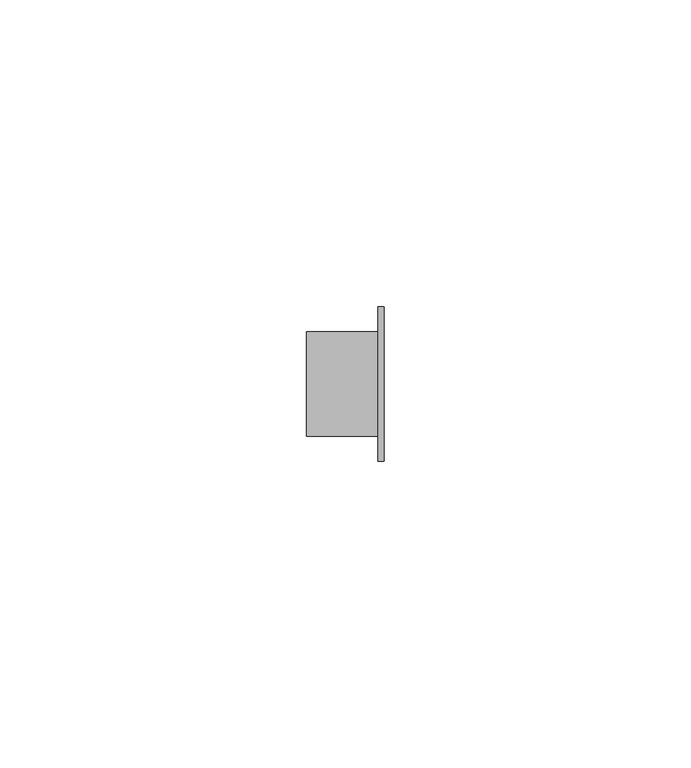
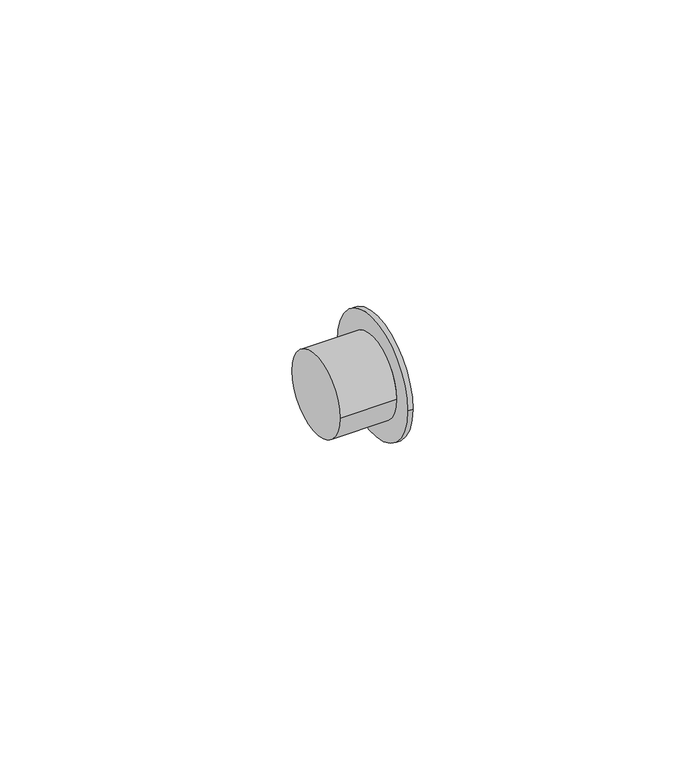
"""IFC4 building model written with IfcOpenShell, lengths in millimetres: pipe fitting geometry, Bucha de redução reta - Soldada - CU : Padrão."""

from ifc_helpers import new_model, si_unit, frame, origin, place, context, project, spatial, circle_curve, source, transform, mapped, element, save
from ifc_brep_helpers import plane_surface, cylinder_surface, advanced_brep


def pipe_fitting_89a6909e(model_context):
    return source(origin(), model_context, "Body", "AdvancedBrep", [
        advanced_brep(
        [(0.0, 8.4937, 0.0), (0.0, -8.4937, 0.0), (11.6589, -8.4937, 0.0), (11.6589, 8.4937, 0.0), (12.6589, 12.6, 0.0), (12.6589, -12.6, 0.0), (11.6589, -12.6, 0.0), (11.6589, 12.6, 0.0)],
        [
            (0, 1, circle_curve(frame((0.0, 0.0, 0.0), z_axis=(-1.0, 0.0, 0.0), x_axis=(0.0, -1.0, 0.0)), 8.4937)),
            (1, 0, circle_curve(frame((0.0, 0.0, 0.0), z_axis=(-1.0, 0.0, 0.0), x_axis=(0.0, -1.0, 0.0)), 8.4937)),
            (1, 2),
            (2, 3, circle_curve(frame((11.6589, 0.0, 0.0), z_axis=(-1.0, 0.0, 0.0), x_axis=(0.0, -1.0, 0.0)), 8.4937)),
            (3, 0),
            (3, 2, circle_curve(frame((11.6589, 0.0, 0.0), z_axis=(-1.0, 0.0, 0.0), x_axis=(0.0, -1.0, 0.0)), 8.4937)),
            (4, 5, circle_curve(frame((12.6589, 0.0, 0.0), z_axis=(1.0, 0.0, 0.0), x_axis=(0.0, -1.0, 0.0)), 12.6)),
            (5, 4, circle_curve(frame((12.6589, 0.0, 0.0), z_axis=(1.0, 0.0, 0.0), x_axis=(0.0, -1.0, 0.0)), 12.6)),
            (6, 5),
            (4, 7),
            (7, 6, circle_curve(frame((11.6589, 0.0, 0.0), z_axis=(1.0, 0.0, 0.0), x_axis=(0.0, -1.0, 0.0)), 12.6)),
            (6, 7, circle_curve(frame((11.6589, 0.0, 0.0), z_axis=(1.0, 0.0, 0.0), x_axis=(0.0, -1.0, 0.0)), 12.6)),
        ],
        [
            plane_surface(frame((0.0, 0.0, 0.0), z_axis=(-1.0, 0.0, 0.0), x_axis=(0.0, 0.0, 1.0))),
            cylinder_surface(frame((0.0, 0.0, 0.0), z_axis=(-1.0, 0.0, 0.0), x_axis=(0.0, -1.0, 0.0)), 8.4937),
            plane_surface(frame((12.6589, 0.0, 0.0), z_axis=(1.0, 0.0, 0.0), x_axis=(0.0, 0.0, 1.0))),
            cylinder_surface(frame((11.6589, 0.0, 0.0), z_axis=(-1.0, 0.0, 0.0), x_axis=(0.0, -1.0, 0.0)), 12.6),
            plane_surface(frame((11.6589, 0.0, 0.0), z_axis=(-1.0, 0.0, 0.0), x_axis=(0.0, 0.0, 1.0))),
        ],
        [
            (0, [[1, 2]]),
            (1, [[3, 4, 5, -2]]),
            (1, [[-5, 6, -3, -1]]),
            (2, [[7, 8]]),
            (3, [[9, -7, 10, 11]]),
            (3, [[-10, -8, -9, 12]]),
            (4, [[-12, -11], [-6, -4]]),
        ],
    ),
    ])


if __name__ == "__main__":
    model = new_model("IFC4")
    model_context = context("Model", 3, world=origin())
    ifc_project = project(units=[si_unit("LENGTHUNIT", "METRE", prefix="MILLI")], contexts=[model_context])
    site = spatial("IfcSite", under=ifc_project)
    building = spatial("IfcBuilding", under=site)
    placement = place(None, origin())
    pipe_fitting_shape = pipe_fitting_89a6909e(model_context)
    element("IfcPipeFitting", 1, ObjectType="Bucha de redução reta - Soldada - CU : Padrão", at=placement, inside=building, context=model_context, shape_type="MappedRepresentation", body=[
        mapped(pipe_fitting_shape, transform((0.0, 0.0, 0.0), x_axis=(1.0, 0.0, 0.0), y_axis=(0.0, 1.0, 0.0), z_axis=(0.0, 0.0, 1.0))),
    ])
    save(model, "model.ifc")
